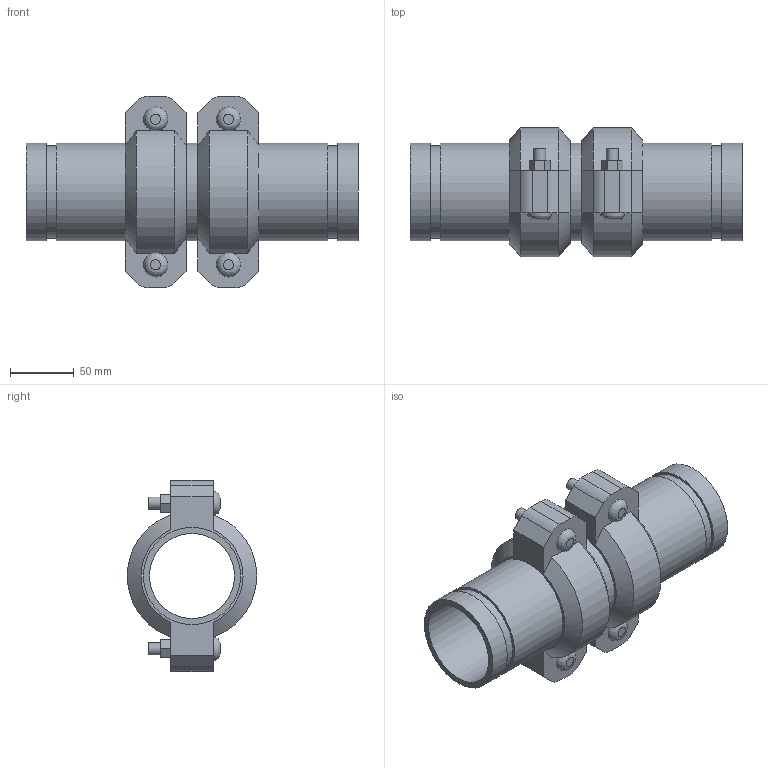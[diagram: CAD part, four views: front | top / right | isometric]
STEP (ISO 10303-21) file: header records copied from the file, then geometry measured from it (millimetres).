
FILE_DESCRIPTION(/* description */ ('VIC EXPANSION JOINT 2 COUPLINGS COMPRESSED STYLE 155 (OGS)','CAx-IF Rec.Pracs.---Representation and Presentation of Product Manufacturing Information (PMI)---4.0---2014-10-13'),/* implementation_level */ '2;1');
FILE_NAME(/* name */ 'C:\Users\kkamble\AppData\Roaming\Autodesk\ApplicationPlugins\Victaulic.Temp\A11\Victaulic_IPS_Expansion Joint_Compressed_2 Couplings_Style 155 (OGS)_02.5 (76.1) (65).stp',/* time_stamp */ '2021-06-27T00:23:22+02:00',/* author */ ('kkamble'),/* organization */ ('Victaulic'),/* preprocessor_version */ 'ST-DEVELOPER v17.2',/* originating_system */ 'Autodesk Inventor 2019',/* authorisation */ '');
FILE_SCHEMA (('AP242_MANAGED_MODEL_BASED_3D_ENGINEERING_MIM_LF { 1 0 10303 442 1 1 4 }'));
Length unit declared in the file: inch
Products named in the file (4): 155-02.5 (76.1); Nipple-02.5 (76.1); Nipple-02.5 (76.1)_1; 075-02.5 (76.1)
Assembly tree (5 placements, depth 2):
  155-02.5 (76.1)
    Nipple-02.5 (76.1)  x2
    Nipple-02.5 (76.1)_1
    075-02.5 (76.1)  x2
Bounding box: 260.35 x 101.25 x 149.86 mm (x, y, z)
Volume: 696930.5 mm3; surface area: 216076.8 mm2
Topology: 5 solids, 9 shells, 142 faces, 352 edges, 248 vertices
Faces by surface type: plane 86, cylinder 44, cone 8, bspline 4
Full cylindrical faces by diameter (mm): 9.525 x8, 11.43 x4, 66.65 x3, 72.263 x6, 76.2 x11
Entity records: 2709 total; most frequent: CARTESIAN_POINT 507, DIRECTION 437, ORIENTED_EDGE 382, EDGE_CURVE 191, AXIS2_PLACEMENT_3D 172, VERTEX_POINT 136, EDGE_LOOP 99, LINE 93
